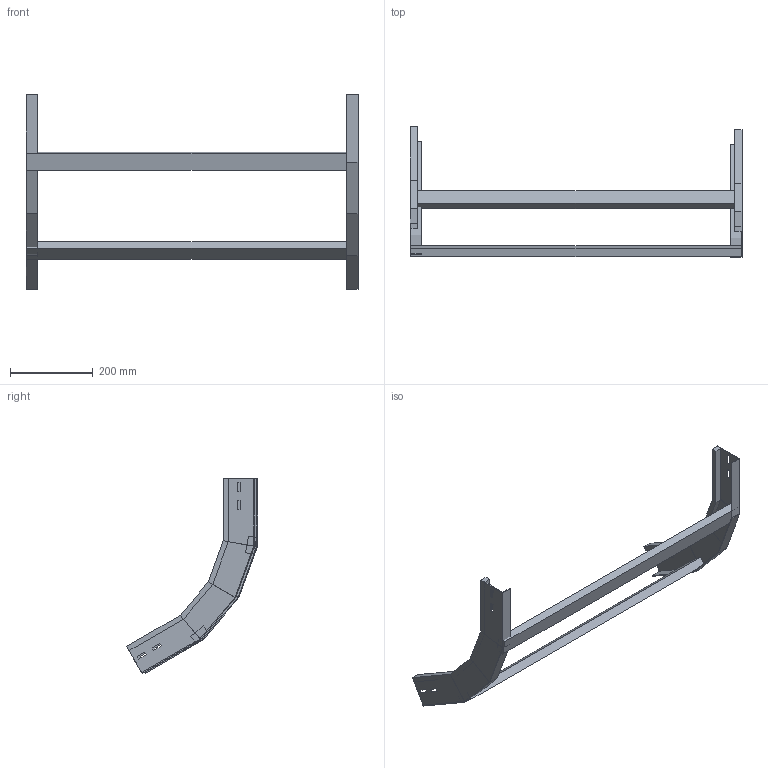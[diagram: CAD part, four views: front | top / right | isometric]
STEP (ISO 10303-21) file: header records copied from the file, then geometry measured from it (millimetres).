
FILE_DESCRIPTION (( 'STEP AP214' ), '1' );
FILE_NAME ('A2X40B3C800XX.step', '2025-04-02T09:35:10', ( '' ), ( '' ), 'SwSTEP 2.0', 'SolidWorks 2023', '' );
FILE_SCHEMA (( 'AUTOMOTIVE_DESIGN' ));
Length unit declared in the file: millimetre
Products named in the file (3): LONGH.SALITA_60°_H75_R300; A2X40B3C800XX; TRAVERSINO_800
Assembly tree (4 placements, depth 2):
  A2X40B3C800XX
    LONGH.SALITA_60°_H75_R300  x2
    TRAVERSINO_800  x2
Bounding box: 800 x 315.85 x 469.15 mm (x, y, z)
Volume: 1709106 mm3; surface area: 457103.6 mm2
Topology: 4 solids, 4 shells, 112 faces, 264 edges, 160 vertices
Faces by surface type: plane 112
Entity records: 1664 total; most frequent: CARTESIAN_POINT 275, ORIENTED_EDGE 264, DIRECTION 258, LINE 132, EDGE_CURVE 132, VECTOR 132, VERTEX_POINT 80, EDGE_LOOP 64
